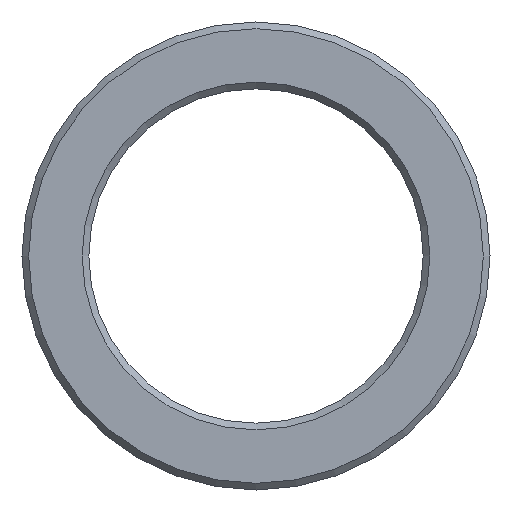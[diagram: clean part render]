
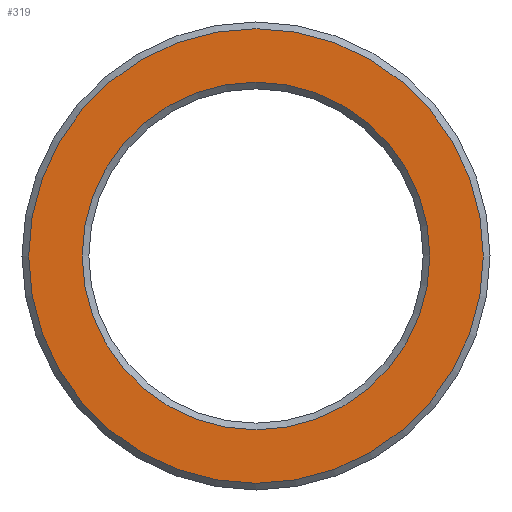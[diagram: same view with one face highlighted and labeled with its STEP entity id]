
A CAD part, left-side view. The second image highlights one B-rep face of the part: STEP entity #319.
In plain terms, the highlighted planar face has unit normal (-1, 0, 0).
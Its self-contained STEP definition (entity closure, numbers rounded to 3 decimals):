
#277=CARTESIAN_POINT('',(-40.0,17.,0.));
#278=VERTEX_POINT('',#277);
#279=CARTESIAN_POINT('',(-40.0,0.0,0.0));
#280=DIRECTION('',(1.0,0.0,0.0));
#281=DIRECTION('',(0.0,-1.0,0.0));
#282=AXIS2_PLACEMENT_3D('',#279,#280,#281);
#283=CIRCLE('',#282,17.);
#284=EDGE_CURVE('',#278,#278,#283,.T.);
#300=CARTESIAN_POINT('',(-40.0,15.,0.0));
#301=DIRECTION('',(-1.0,0.0,0.0));
#302=DIRECTION('',(0.0,0.0,1.0));
#303=AXIS2_PLACEMENT_3D('',#300,#301,#302);
#304=PLANE('',#303);
#305=ORIENTED_EDGE('',*,*,#284,.F.);
#306=EDGE_LOOP('',(#305));
#307=FACE_OUTER_BOUND('',#306,.T.);
#308=CARTESIAN_POINT('',(-40.0,13.,0.));
#309=VERTEX_POINT('',#308);
#310=CARTESIAN_POINT('',(-40.0,0.0,0.0));
#311=DIRECTION('',(-1.0,0.0,0.0));
#312=DIRECTION('',(0.0,-1.0,0.0));
#313=AXIS2_PLACEMENT_3D('',#310,#311,#312);
#314=CIRCLE('',#313,13.);
#315=EDGE_CURVE('',#309,#309,#314,.T.);
#316=ORIENTED_EDGE('',*,*,#315,.F.);
#317=EDGE_LOOP('',(#316));
#318=FACE_BOUND('',#317,.T.);
#319=ADVANCED_FACE('',(#307,#318),#304,.T.);
